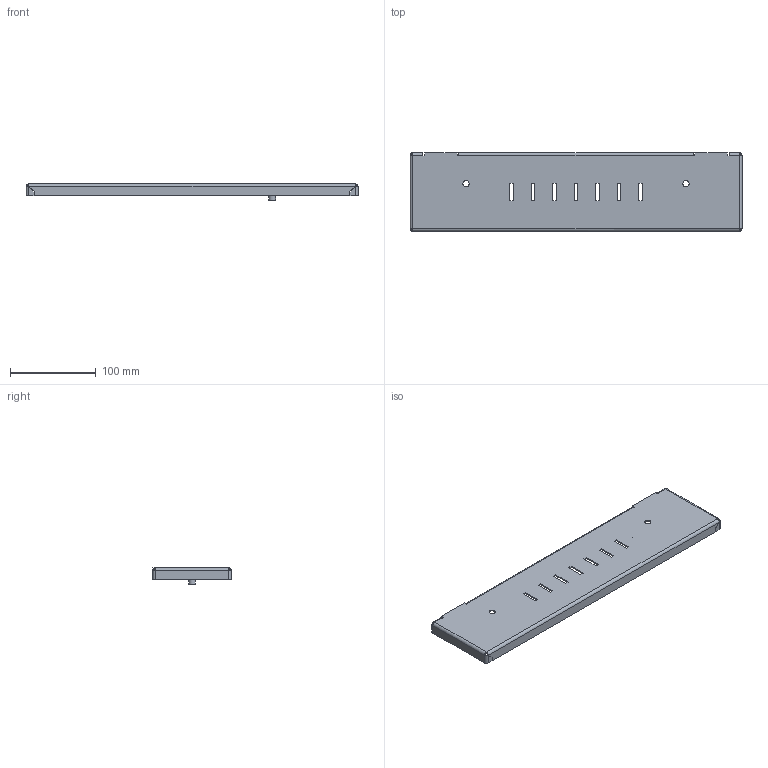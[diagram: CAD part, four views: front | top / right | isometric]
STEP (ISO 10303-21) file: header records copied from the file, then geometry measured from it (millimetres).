
FILE_DESCRIPTION(('STEP AP203'), '1');
FILE_NAME('Ïàíåëè êîìïåíñàöèîííûå ëèöåâûå ïåðôîðèðîâàííûå Â91õØ400 ìì OptiBox M (2 øò) 419553 ÊÝÀÇ', '', ('UNSPECIFIED'), ('UNSPECIFIED'), 'C3D Converter', 'C3D Toolkit', '');
FILE_SCHEMA(('CONFIG_CONTROL_DESIGN'));
Length unit declared in the file: millimetre
Bounding box: 386.4 x 91.5 x 18.9 mm (x, y, z)
Volume: 113961 mm3; surface area: 115866.1 mm2
Topology: 3 solids, 3 shells, 166 faces, 401 edges, 246 vertices
Faces by surface type: plane 115, cylinder 43, bspline 8
Full cylindrical faces by diameter (mm): 0.75 x1, 1 x1, 5 x2, 7.3 x2, 8 x1, 9.3 x1, 13 x1, 13.5 x2
Entity records: 7144 total; most frequent: CARTESIAN_POINT 2039, ORIENTED_EDGE 780, DIRECTION 726, EDGE_CURVE 390, LINE 300, VECTOR 300, VERTEX_POINT 246, AXIS2_PLACEMENT_3D 213
